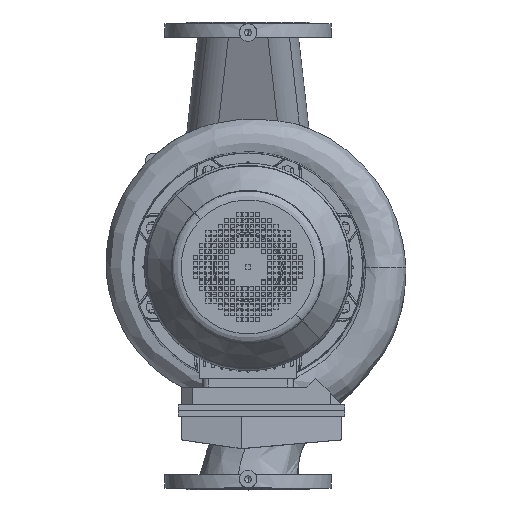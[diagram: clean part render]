
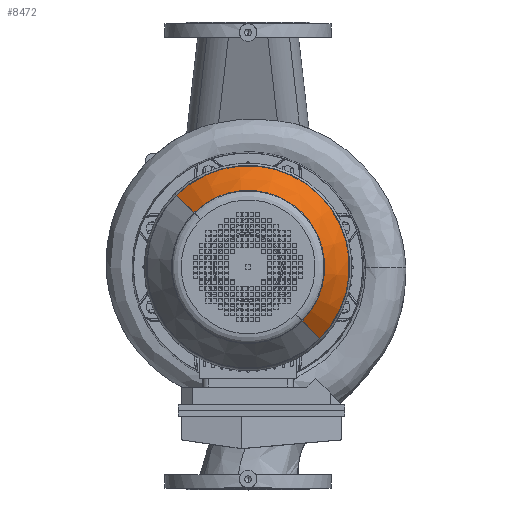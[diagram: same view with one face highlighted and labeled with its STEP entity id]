
A CAD part, top view. The second image highlights one B-rep face of the part: STEP entity #8472.
In plain terms, the highlighted conical face has half-angle 34.992 degrees and reference radius 125 mm.
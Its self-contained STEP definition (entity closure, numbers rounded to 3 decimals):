
#8472=ADVANCED_FACE('',(#20820),#20821,.T.);
#10168=EDGE_CURVE('',#23783,#23784,#23785,.T.);
#10170=EDGE_CURVE('',#23787,#23788,#23789,.T.);
#20820=FACE_OUTER_BOUND('',#38904,.T.);
#20821=CONICAL_SURFACE('',#38905,125.0,0.611);
#23783=VERTEX_POINT('',#41872);
#23784=VERTEX_POINT('',#41873);
#23785=CIRCLE('',#41874,173.885);
#23787=VERTEX_POINT('',#41877);
#23788=VERTEX_POINT('',#41878);
#23789=CIRCLE('',#41879,130.972);
#38904=EDGE_LOOP('',(#67478,#67479,#67480,#67481));
#38905=AXIS2_PLACEMENT_3D('',#67482,#67483,#67484);
#41872=CARTESIAN_POINT('',(173.885,0.,130.165));
#41873=CARTESIAN_POINT('',(-173.885,0.,130.165));
#41874=AXIS2_PLACEMENT_3D('',#75933,#75934,#75935);
#41877=CARTESIAN_POINT('',(-130.972,0.,191.469));
#41878=CARTESIAN_POINT('',(130.972,0.0,191.469));
#41879=AXIS2_PLACEMENT_3D('',#75936,#75937,#75938);
#67478=ORIENTED_EDGE('',*,*,#85470,.F.);
#67479=ORIENTED_EDGE('',*,*,#10168,.F.);
#67480=ORIENTED_EDGE('',*,*,#85471,.F.);
#67481=ORIENTED_EDGE('',*,*,#10170,.F.);
#67482=CARTESIAN_POINT('',(0.0,0.0,200.0));
#67483=DIRECTION('',(-0.0,-0.0,-1.0));
#67484=DIRECTION('',(-1.0,0.0,0.0));
#75933=CARTESIAN_POINT('',(0.0,0.0,130.165));
#75934=DIRECTION('',(0.0,0.0,-1.0));
#75935=DIRECTION('',(1.0,0.,0.0));
#75936=CARTESIAN_POINT('',(0.0,0.0,191.469));
#75937=DIRECTION('',(0.0,0.0,1.0));
#75938=DIRECTION('',(1.0,0.0,0.0));
#85470=EDGE_CURVE('',#23784,#23787,#92293,.T.);
#85471=EDGE_CURVE('',#23788,#23783,#92294,.T.);
#92293=LINE('',#101835,#101836);
#92294=LINE('',#101837,#101838);
#101835=CARTESIAN_POINT('',(-125.0,0.,200.0));
#101836=VECTOR('',#110601,1.0);
#101837=CARTESIAN_POINT('',(125.0,0.,200.0));
#101838=VECTOR('',#110602,1.0);
#110601=DIRECTION('',(0.573,0.,0.819));
#110602=DIRECTION('',(0.573,0.,-0.819));
